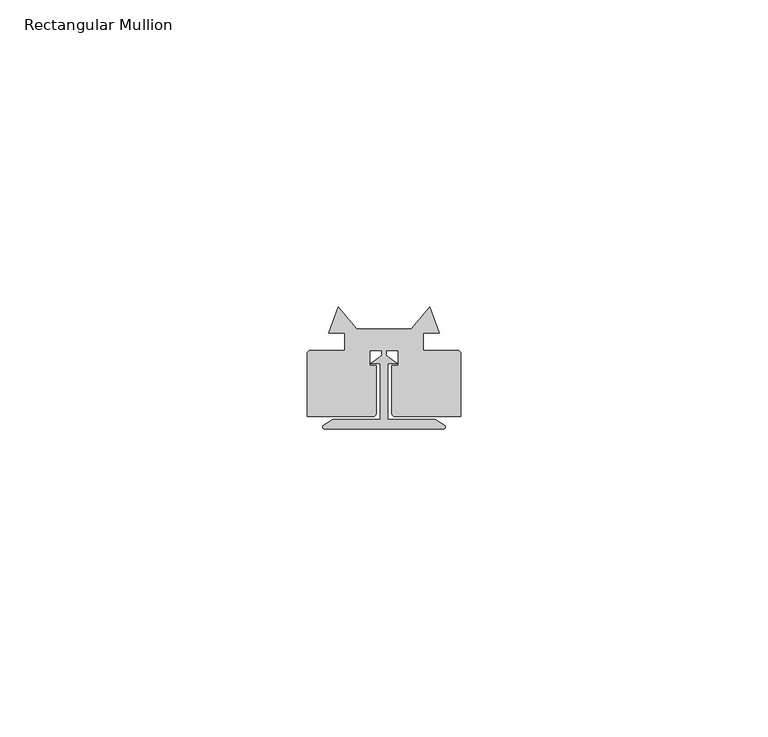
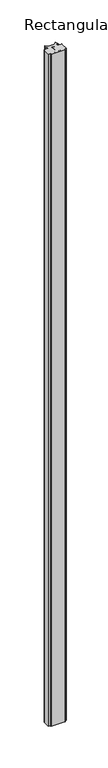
"""IFC4 building model written with IfcOpenShell, lengths in millimetres: member geometry, Rectangular Mullion : QO-H-01_01 Joint."""

from ifc_helpers import new_model, si_unit, point, frame, frame_2d, origin, place, context, project, spatial, polyline, circle_curve, trimmed, segment, composite_curve, outline, extrude, source, transform, mapped, element, save


def rectangular_mullion_dd22ac08(model_context):
    return source(origin(), model_context, "Body", "SweptSolid", [
        extrude(outline(composite_curve([segment(polyline([(0.6475876, 34.6160805), (0.6475876, 25.5027713), (8.3158634, 25.5027713), (9.8478388, 24.5783623)]), True, "CONTINUOUS"), segment(trimmed(circle_curve(frame_2d((9.6876801, 24.3129396)), 0.31), [point((9.8478388, 24.5783623))], [point((9.6876801, 24.0029396))], False, "CARTESIAN"), True, "CONTINUOUS"), segment(polyline([(9.6876801, 24.0029396), (-9.6923428, 24.0029396)]), True, "CONTINUOUS"), segment(trimmed(circle_curve(frame_2d((-9.6923428, 24.3129396)), 0.31), [point((-9.6923428, 24.0029396))], [point((-9.8525015, 24.5783623))], False, "CARTESIAN"), True, "CONTINUOUS"), segment(polyline([(-9.8525015, 24.5783623), (-8.3205261, 25.5027713), (-0.6524124, 25.5027713), (-0.6524124, 34.6160805), (-2.1674381, 34.6160805), (-0.3546092, 35.9759407), (-0.3546092, 36.7759407), (-2.3561345, 36.7759407), (-2.3561345, 34.317153), (-1.2879019, 34.317153), (-1.2879019, 26.5392087)]), True, "CONTINUOUS"), segment(trimmed(circle_curve(frame_2d((-1.7872786, 26.5150144)), 0.4999625), [point((-1.2879019, 26.5392087))], [point((-1.7872786, 26.0150519))], False, "CARTESIAN"), True, "CONTINUOUS"), segment(polyline([(-1.7872786, 26.0150519), (-12.5010847, 26.0150519), (-12.5010847, 36.190378)]), True, "CONTINUOUS"), segment(trimmed(circle_curve(frame_2d((-11.9010847, 36.190378)), 0.6), [point((-12.5010847, 36.190378))], [point((-11.9010847, 36.790378))], False, "CARTESIAN"), True, "CONTINUOUS"), segment(polyline([(-11.9010847, 36.790378), (-6.362561, 36.790378), (-6.362561, 39.6058207), (-8.961162, 39.6058207), (-7.4224126, 43.8493822), (-4.3991903, 40.3004498), (4.3943655, 40.3004498), (7.4175879, 43.8493822), (8.9563372, 39.6058207), (6.3577362, 39.6058207), (6.3577362, 36.790378), (11.8962599, 36.790378)]), True, "CONTINUOUS"), segment(trimmed(circle_curve(frame_2d((11.8962599, 36.190378)), 0.6), [point((11.8962599, 36.790378))], [point((12.4962599, 36.190378))], False, "CARTESIAN"), True, "CONTINUOUS"), segment(polyline([(12.4962599, 36.190378), (12.4962599, 26.0150519), (1.7824538, 26.0150519)]), True, "CONTINUOUS"), segment(trimmed(circle_curve(frame_2d((1.7824538, 26.5150144)), 0.4999625), [point((1.7824538, 26.0150519))], [point((1.2830771, 26.5392087))], False, "CARTESIAN"), True, "CONTINUOUS"), segment(polyline([(1.2830771, 26.5392087), (1.2830771, 34.317153), (2.3513097, 34.317153), (2.3513097, 36.7759407), (0.3497844, 36.7759407), (0.3497844, 35.9759407), (2.1626133, 34.6160805), (0.6475876, 34.6160805)]), True, "CONTINUOUS")], self_intersect=False)), frame((0.0, 0.0, -1000.0), z_axis=(0.0, 0.0, 1.0), x_axis=(1.0, 0.0, 0.0)), (0.0, 0.0, 1.0), 1000.0),
    ])


if __name__ == "__main__":
    model = new_model("IFC4")
    model_context = context("Model", 3, world=origin())
    ifc_project = project(units=[si_unit("LENGTHUNIT", "METRE", prefix="MILLI")], contexts=[model_context])
    site = spatial("IfcSite", under=ifc_project)
    building = spatial("IfcBuilding", under=site)
    placement = place(None, origin())
    rectangular_mullion_shape = rectangular_mullion_dd22ac08(model_context)
    element("IfcMember", 1, ObjectType="Rectangular Mullion : QO-H-01_01 Joint", at=placement, inside=building, context=model_context, shape_type="MappedRepresentation", body=[
        mapped(rectangular_mullion_shape, transform((0.0, 0.0, 0.0), x_axis=(1.0, 0.0, 0.0), y_axis=(0.0, 1.0, 0.0), z_axis=(0.0, 0.0, 1.0))),
    ])
    save(model, "model.ifc")
